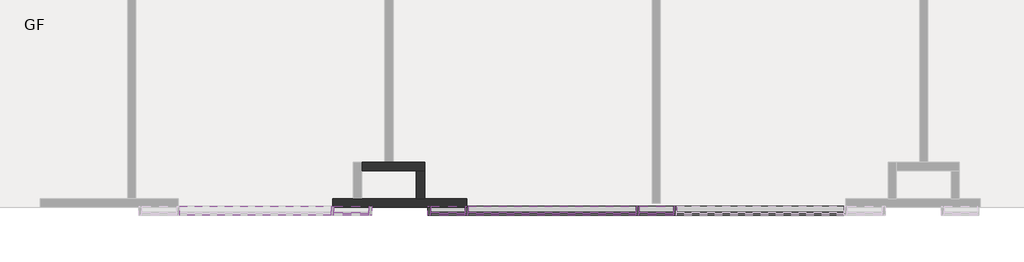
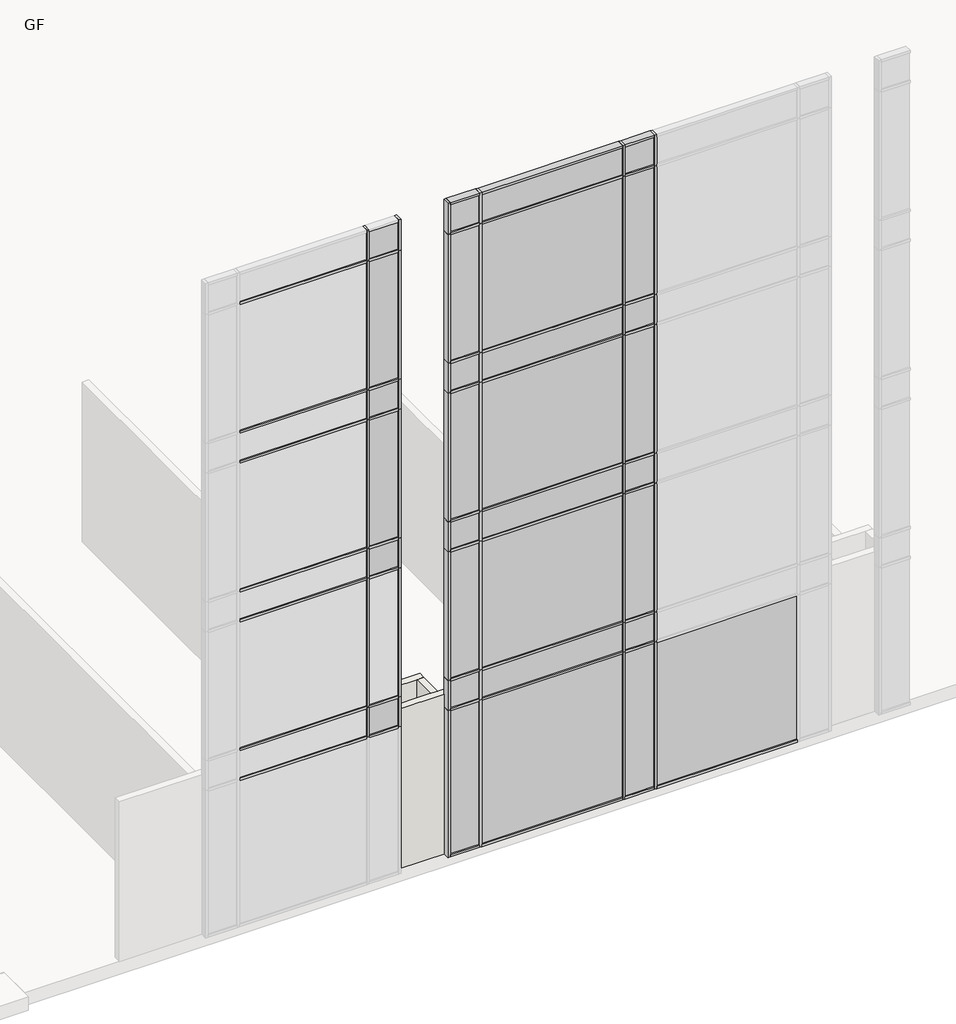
# One storey, part 4 of 23: 88 members, 31 plates, 3 walls.
"""IFC4 building model written with IfcOpenShell, lengths in millimetres."""

from ifc_helpers import new_model, si_unit, frame, origin, place, context, project, spatial, polyline, outline, extrude, faceted_brep, transform, mapped, element, save
from components import rectangular_mullion_50_x_150mm_64d38db8, rectangular_mullion_50_x_150mm_68b3818a, rectangular_mullion_50_x_150mm_f245f1eb, rectangular_mullion_50_x_150mm_5fdcfccd, rectangular_mullion_50_x_150mm_d11e3bb4, rectangular_mullion_50_x_150mm_7d543e93, rectangular_mullion_50_x_150mm_9e0f1e24, rectangular_mullion_50_x_150mm_dbb82e9e, rectangular_mullion_50_x_150mm_32aaa733, rectangular_mullion_50_x_150mm_9b8962c0, rectangular_mullion_50_x_150mm_a95743fc, rectangular_mullion_50_x_150mm_7dcb5a67, rectangular_mullion_50_x_150mm_f1d86669, system_panel_glazed_f9f902e6, system_panel_glazed_6ff5b55b, system_panel_glazed_93ed122c, system_panel_glazed_66c44f38, system_panel_glazed_399b1310, system_panel_glazed_5ec2e07d

model = new_model("IFC4")

# Units and contexts
model_context = context("Model", 3, world=origin())
ifc_project = project(units=[si_unit("LENGTHUNIT", "METRE", prefix="MILLI")], contexts=[model_context])

# Site, building, storey
site = spatial("IfcSite", under=ifc_project)
building = spatial("IfcBuilding", under=site)
storey = spatial("IfcBuildingStorey", under=building, Name="GF", Elevation=900.0)

# Members
placement = place(None, origin())
rectangular_mullion_50_x_150mm_shape = rectangular_mullion_50_x_150mm_64d38db8(model_context)
element("IfcMember", 1, ObjectType="Rectangular Mullion : 50 x 150mm", at=placement, inside=storey, context=model_context, shape_type="MappedRepresentation", body=[
    mapped(rectangular_mullion_50_x_150mm_shape, transform((-11502.5865899, -25897.6148653, 15125.0), x_axis=(0.0, 0.0, 1.0), y_axis=(0.0, -1.0, 0.0), z_axis=(1.0, 0.0, 0.0))),
])
element("IfcMember", 2, ObjectType="Rectangular Mullion : 50 x 150mm", at=placement, inside=storey, context=model_context, shape_type="MappedRepresentation", body=[
    mapped(rectangular_mullion_50_x_150mm_shape, transform((-7907.5865899, -25897.6148653, 15125.0), x_axis=(0.0, 0.0, 1.0), y_axis=(0.0, -1.0, 0.0), z_axis=(1.0, 0.0, 0.0))),
])
element("IfcMember", 3, ObjectType="Rectangular Mullion : 50 x 150mm", at=placement, inside=storey, context=model_context, shape_type="MappedRepresentation", body=[
    mapped(rectangular_mullion_50_x_150mm_shape, transform((-12102.5865899, -25897.6148653, 900.0), x_axis=(0.0, 0.0, -1.0), y_axis=(0.0, -1.0, 0.0), z_axis=(-1.0, 0.0, 0.0))),
])
element("IfcMember", 4, ObjectType="Rectangular Mullion : 50 x 150mm", at=placement, inside=storey, context=model_context, shape_type="MappedRepresentation", body=[
    mapped(rectangular_mullion_50_x_150mm_shape, transform((-8507.5865899, -25897.6148653, 900.0), x_axis=(0.0, 0.0, -1.0), y_axis=(0.0, -1.0, 0.0), z_axis=(-1.0, 0.0, 0.0))),
])
rectangular_mullion_50_x_150mm_2_shape = rectangular_mullion_50_x_150mm_68b3818a(model_context)
element("IfcMember", 5, ObjectType="Rectangular Mullion : 50 x 150mm", at=placement, inside=storey, context=model_context, shape_type="MappedRepresentation", body=[
    mapped(rectangular_mullion_50_x_150mm_2_shape, transform((-13172.5865899, -25897.6148653, 4750.0), x_axis=(0.0, 0.0, 1.0), y_axis=(0.0, -1.0, 0.0), z_axis=(1.0, 0.0, 0.0))),
])
element("IfcMember", 6, ObjectType="Rectangular Mullion : 50 x 150mm", at=placement, inside=storey, context=model_context, shape_type="MappedRepresentation", body=[
    mapped(rectangular_mullion_50_x_150mm_2_shape, transform((-13172.5865899, -25897.6148653, 4100.0), x_axis=(0.0, 0.0, 1.0), y_axis=(0.0, -1.0, 0.0), z_axis=(1.0, 0.0, 0.0))),
])
element("IfcMember", 7, ObjectType="Rectangular Mullion : 50 x 150mm", at=placement, inside=storey, context=model_context, shape_type="MappedRepresentation", body=[
    mapped(rectangular_mullion_50_x_150mm_2_shape, transform((-13172.5865899, -25897.6148653, 8200.0), x_axis=(0.0, 0.0, 1.0), y_axis=(0.0, -1.0, 0.0), z_axis=(1.0, 0.0, 0.0))),
])
element("IfcMember", 8, ObjectType="Rectangular Mullion : 50 x 150mm", at=placement, inside=storey, context=model_context, shape_type="MappedRepresentation", body=[
    mapped(rectangular_mullion_50_x_150mm_2_shape, transform((-13172.5865899, -25897.6148653, 11650.0), x_axis=(0.0, 0.0, 1.0), y_axis=(0.0, -1.0, 0.0), z_axis=(1.0, 0.0, 0.0))),
])
element("IfcMember", 9, ObjectType="Rectangular Mullion : 50 x 150mm", at=placement, inside=storey, context=model_context, shape_type="MappedRepresentation", body=[
    mapped(rectangular_mullion_50_x_150mm_2_shape, transform((-13172.5865899, -25897.6148653, 7550.0), x_axis=(0.0, 0.0, 1.0), y_axis=(0.0, -1.0, 0.0), z_axis=(1.0, 0.0, 0.0))),
])
element("IfcMember", 10, ObjectType="Rectangular Mullion : 50 x 150mm", at=placement, inside=storey, context=model_context, shape_type="MappedRepresentation", body=[
    mapped(rectangular_mullion_50_x_150mm_2_shape, transform((-13172.5865899, -25897.6148653, 11000.0), x_axis=(0.0, 0.0, 1.0), y_axis=(0.0, -1.0, 0.0), z_axis=(1.0, 0.0, 0.0))),
])
element("IfcMember", 11, ObjectType="Rectangular Mullion : 50 x 150mm", at=placement, inside=storey, context=model_context, shape_type="MappedRepresentation", body=[
    mapped(rectangular_mullion_50_x_150mm_2_shape, transform((-13172.5865899, -25897.6148653, 14450.0), x_axis=(0.0, 0.0, 1.0), y_axis=(0.0, -1.0, 0.0), z_axis=(1.0, 0.0, 0.0))),
])
element("IfcMember", 12, ObjectType="Rectangular Mullion : 50 x 150mm", at=placement, inside=storey, context=model_context, shape_type="MappedRepresentation", body=[
    mapped(rectangular_mullion_50_x_150mm_2_shape, transform((-11502.5865899, -25897.6148653, 4750.0), x_axis=(0.0, 0.0, 1.0), y_axis=(0.0, -1.0, 0.0), z_axis=(1.0, 0.0, 0.0))),
])
element("IfcMember", 13, ObjectType="Rectangular Mullion : 50 x 150mm", at=placement, inside=storey, context=model_context, shape_type="MappedRepresentation", body=[
    mapped(rectangular_mullion_50_x_150mm_2_shape, transform((-7907.5865899, -25897.6148653, 4750.0), x_axis=(0.0, 0.0, 1.0), y_axis=(0.0, -1.0, 0.0), z_axis=(1.0, 0.0, 0.0))),
])
element("IfcMember", 14, ObjectType="Rectangular Mullion : 50 x 150mm", at=placement, inside=storey, context=model_context, shape_type="MappedRepresentation", body=[
    mapped(rectangular_mullion_50_x_150mm_2_shape, transform((-11502.5865899, -25897.6148653, 4100.0), x_axis=(0.0, 0.0, 1.0), y_axis=(0.0, -1.0, 0.0), z_axis=(1.0, 0.0, 0.0))),
])
element("IfcMember", 15, ObjectType="Rectangular Mullion : 50 x 150mm", at=placement, inside=storey, context=model_context, shape_type="MappedRepresentation", body=[
    mapped(rectangular_mullion_50_x_150mm_2_shape, transform((-7907.5865899, -25897.6148653, 4100.0), x_axis=(0.0, 0.0, 1.0), y_axis=(0.0, -1.0, 0.0), z_axis=(1.0, 0.0, 0.0))),
])
element("IfcMember", 16, ObjectType="Rectangular Mullion : 50 x 150mm", at=placement, inside=storey, context=model_context, shape_type="MappedRepresentation", body=[
    mapped(rectangular_mullion_50_x_150mm_2_shape, transform((-11502.5865899, -25897.6148653, 8200.0), x_axis=(0.0, 0.0, 1.0), y_axis=(0.0, -1.0, 0.0), z_axis=(1.0, 0.0, 0.0))),
])
element("IfcMember", 17, ObjectType="Rectangular Mullion : 50 x 150mm", at=placement, inside=storey, context=model_context, shape_type="MappedRepresentation", body=[
    mapped(rectangular_mullion_50_x_150mm_2_shape, transform((-7907.5865899, -25897.6148653, 8200.0), x_axis=(0.0, 0.0, 1.0), y_axis=(0.0, -1.0, 0.0), z_axis=(1.0, 0.0, 0.0))),
])
element("IfcMember", 18, ObjectType="Rectangular Mullion : 50 x 150mm", at=placement, inside=storey, context=model_context, shape_type="MappedRepresentation", body=[
    mapped(rectangular_mullion_50_x_150mm_2_shape, transform((-11502.5865899, -25897.6148653, 11650.0), x_axis=(0.0, 0.0, 1.0), y_axis=(0.0, -1.0, 0.0), z_axis=(1.0, 0.0, 0.0))),
])
element("IfcMember", 19, ObjectType="Rectangular Mullion : 50 x 150mm", at=placement, inside=storey, context=model_context, shape_type="MappedRepresentation", body=[
    mapped(rectangular_mullion_50_x_150mm_2_shape, transform((-7907.5865899, -25897.6148653, 11650.0), x_axis=(0.0, 0.0, 1.0), y_axis=(0.0, -1.0, 0.0), z_axis=(1.0, 0.0, 0.0))),
])
element("IfcMember", 20, ObjectType="Rectangular Mullion : 50 x 150mm", at=placement, inside=storey, context=model_context, shape_type="MappedRepresentation", body=[
    mapped(rectangular_mullion_50_x_150mm_2_shape, transform((-11502.5865899, -25897.6148653, 7550.0), x_axis=(0.0, 0.0, 1.0), y_axis=(0.0, -1.0, 0.0), z_axis=(1.0, 0.0, 0.0))),
])
element("IfcMember", 21, ObjectType="Rectangular Mullion : 50 x 150mm", at=placement, inside=storey, context=model_context, shape_type="MappedRepresentation", body=[
    mapped(rectangular_mullion_50_x_150mm_2_shape, transform((-7907.5865899, -25897.6148653, 7550.0), x_axis=(0.0, 0.0, 1.0), y_axis=(0.0, -1.0, 0.0), z_axis=(1.0, 0.0, 0.0))),
])
element("IfcMember", 22, ObjectType="Rectangular Mullion : 50 x 150mm", at=placement, inside=storey, context=model_context, shape_type="MappedRepresentation", body=[
    mapped(rectangular_mullion_50_x_150mm_2_shape, transform((-11502.5865899, -25897.6148653, 11000.0), x_axis=(0.0, 0.0, 1.0), y_axis=(0.0, -1.0, 0.0), z_axis=(1.0, 0.0, 0.0))),
])
element("IfcMember", 23, ObjectType="Rectangular Mullion : 50 x 150mm", at=placement, inside=storey, context=model_context, shape_type="MappedRepresentation", body=[
    mapped(rectangular_mullion_50_x_150mm_2_shape, transform((-7907.5865899, -25897.6148653, 11000.0), x_axis=(0.0, 0.0, 1.0), y_axis=(0.0, -1.0, 0.0), z_axis=(1.0, 0.0, 0.0))),
])
element("IfcMember", 24, ObjectType="Rectangular Mullion : 50 x 150mm", at=placement, inside=storey, context=model_context, shape_type="MappedRepresentation", body=[
    mapped(rectangular_mullion_50_x_150mm_2_shape, transform((-11502.5865899, -25897.6148653, 14450.0), x_axis=(0.0, 0.0, 1.0), y_axis=(0.0, -1.0, 0.0), z_axis=(1.0, 0.0, 0.0))),
])
element("IfcMember", 25, ObjectType="Rectangular Mullion : 50 x 150mm", at=placement, inside=storey, context=model_context, shape_type="MappedRepresentation", body=[
    mapped(rectangular_mullion_50_x_150mm_2_shape, transform((-7907.5865899, -25897.6148653, 14450.0), x_axis=(0.0, 0.0, 1.0), y_axis=(0.0, -1.0, 0.0), z_axis=(1.0, 0.0, 0.0))),
])
rectangular_mullion_50_x_150mm_3_shape = rectangular_mullion_50_x_150mm_f245f1eb(model_context)
element("IfcMember", 26, ObjectType="Rectangular Mullion : 50 x 150mm", at=placement, inside=storey, context=model_context, shape_type="MappedRepresentation", body=[
    mapped(rectangular_mullion_50_x_150mm_3_shape, transform((-11477.5865899, -25897.6148653, 900.0), x_axis=(1.0, 0.0, 0.0), y_axis=(0.0, -1.0, 0.0), z_axis=(0.0, 0.0, -1.0))),
])
element("IfcMember", 27, ObjectType="Rectangular Mullion : 50 x 150mm", at=placement, inside=storey, context=model_context, shape_type="MappedRepresentation", body=[
    mapped(rectangular_mullion_50_x_150mm_3_shape, transform((-8532.5865899, -25897.6148653, 900.0), x_axis=(1.0, 0.0, 0.0), y_axis=(0.0, -1.0, 0.0), z_axis=(0.0, 0.0, -1.0))),
])
element("IfcMember", 28, ObjectType="Rectangular Mullion : 50 x 150mm", at=placement, inside=storey, context=model_context, shape_type="MappedRepresentation", body=[
    mapped(rectangular_mullion_50_x_150mm_3_shape, transform((-7882.5865899, -25897.6148653, 900.0), x_axis=(1.0, 0.0, 0.0), y_axis=(0.0, -1.0, 0.0), z_axis=(0.0, 0.0, -1.0))),
])
rectangular_mullion_50_x_150mm_4_shape = rectangular_mullion_50_x_150mm_5fdcfccd(model_context)
element("IfcMember", 29, ObjectType="Rectangular Mullion : 50 x 150mm", at=placement, inside=storey, context=model_context, shape_type="MappedRepresentation", body=[
    mapped(rectangular_mullion_50_x_150mm_4_shape, transform((-13822.5865899, -25897.6148653, 4750.0), x_axis=(0.0, 0.0, 1.0), y_axis=(0.0, -1.0, 0.0), z_axis=(1.0, 0.0, 0.0))),
])
element("IfcMember", 30, ObjectType="Rectangular Mullion : 50 x 150mm", at=placement, inside=storey, context=model_context, shape_type="MappedRepresentation", body=[
    mapped(rectangular_mullion_50_x_150mm_4_shape, transform((-13822.5865899, -25897.6148653, 4100.0), x_axis=(0.0, 0.0, 1.0), y_axis=(0.0, -1.0, 0.0), z_axis=(1.0, 0.0, 0.0))),
])
element("IfcMember", 31, ObjectType="Rectangular Mullion : 50 x 150mm", at=placement, inside=storey, context=model_context, shape_type="MappedRepresentation", body=[
    mapped(rectangular_mullion_50_x_150mm_4_shape, transform((-13822.5865899, -25897.6148653, 8200.0), x_axis=(0.0, 0.0, 1.0), y_axis=(0.0, -1.0, 0.0), z_axis=(1.0, 0.0, 0.0))),
])
element("IfcMember", 32, ObjectType="Rectangular Mullion : 50 x 150mm", at=placement, inside=storey, context=model_context, shape_type="MappedRepresentation", body=[
    mapped(rectangular_mullion_50_x_150mm_4_shape, transform((-13822.5865899, -25897.6148653, 11650.0), x_axis=(0.0, 0.0, 1.0), y_axis=(0.0, -1.0, 0.0), z_axis=(1.0, 0.0, 0.0))),
])
element("IfcMember", 33, ObjectType="Rectangular Mullion : 50 x 150mm", at=placement, inside=storey, context=model_context, shape_type="MappedRepresentation", body=[
    mapped(rectangular_mullion_50_x_150mm_4_shape, transform((-13822.5865899, -25897.6148653, 7550.0), x_axis=(0.0, 0.0, 1.0), y_axis=(0.0, -1.0, 0.0), z_axis=(1.0, 0.0, 0.0))),
])
element("IfcMember", 34, ObjectType="Rectangular Mullion : 50 x 150mm", at=placement, inside=storey, context=model_context, shape_type="MappedRepresentation", body=[
    mapped(rectangular_mullion_50_x_150mm_4_shape, transform((-13822.5865899, -25897.6148653, 11000.0), x_axis=(0.0, 0.0, 1.0), y_axis=(0.0, -1.0, 0.0), z_axis=(1.0, 0.0, 0.0))),
])
element("IfcMember", 35, ObjectType="Rectangular Mullion : 50 x 150mm", at=placement, inside=storey, context=model_context, shape_type="MappedRepresentation", body=[
    mapped(rectangular_mullion_50_x_150mm_4_shape, transform((-13822.5865899, -25897.6148653, 14450.0), x_axis=(0.0, 0.0, 1.0), y_axis=(0.0, -1.0, 0.0), z_axis=(1.0, 0.0, 0.0))),
])
rectangular_mullion_50_x_150mm_5_shape = rectangular_mullion_50_x_150mm_d11e3bb4(model_context)
element("IfcMember", 36, ObjectType="Rectangular Mullion : 50 x 150mm", at=placement, inside=storey, context=model_context, shape_type="MappedRepresentation", body=[
    mapped(rectangular_mullion_50_x_150mm_5_shape, transform((-13797.5865899, -25897.6148653, 4750.0), x_axis=(1.0, 0.0, 0.0), y_axis=(0.0, -1.0, 0.0), z_axis=(0.0, 0.0, -1.0))),
])
element("IfcMember", 37, ObjectType="Rectangular Mullion : 50 x 150mm", at=placement, inside=storey, context=model_context, shape_type="MappedRepresentation", body=[
    mapped(rectangular_mullion_50_x_150mm_5_shape, transform((-13797.5865899, -25897.6148653, 8200.0), x_axis=(1.0, 0.0, 0.0), y_axis=(0.0, -1.0, 0.0), z_axis=(0.0, 0.0, -1.0))),
])
element("IfcMember", 38, ObjectType="Rectangular Mullion : 50 x 150mm", at=placement, inside=storey, context=model_context, shape_type="MappedRepresentation", body=[
    mapped(rectangular_mullion_50_x_150mm_5_shape, transform((-13797.5865899, -25897.6148653, 11650.0), x_axis=(1.0, 0.0, 0.0), y_axis=(0.0, -1.0, 0.0), z_axis=(0.0, 0.0, -1.0))),
])
element("IfcMember", 39, ObjectType="Rectangular Mullion : 50 x 150mm", at=placement, inside=storey, context=model_context, shape_type="MappedRepresentation", body=[
    mapped(rectangular_mullion_50_x_150mm_5_shape, transform((-11477.5865899, -25897.6148653, 4750.0), x_axis=(1.0, 0.0, 0.0), y_axis=(0.0, -1.0, 0.0), z_axis=(0.0, 0.0, -1.0))),
])
element("IfcMember", 40, ObjectType="Rectangular Mullion : 50 x 150mm", at=placement, inside=storey, context=model_context, shape_type="MappedRepresentation", body=[
    mapped(rectangular_mullion_50_x_150mm_5_shape, transform((-8532.5865899, -25897.6148653, 4750.0), x_axis=(1.0, 0.0, 0.0), y_axis=(0.0, -1.0, 0.0), z_axis=(0.0, 0.0, -1.0))),
])
element("IfcMember", 41, ObjectType="Rectangular Mullion : 50 x 150mm", at=placement, inside=storey, context=model_context, shape_type="MappedRepresentation", body=[
    mapped(rectangular_mullion_50_x_150mm_5_shape, transform((-11477.5865899, -25897.6148653, 8200.0), x_axis=(1.0, 0.0, 0.0), y_axis=(0.0, -1.0, 0.0), z_axis=(0.0, 0.0, -1.0))),
])
element("IfcMember", 42, ObjectType="Rectangular Mullion : 50 x 150mm", at=placement, inside=storey, context=model_context, shape_type="MappedRepresentation", body=[
    mapped(rectangular_mullion_50_x_150mm_5_shape, transform((-8532.5865899, -25897.6148653, 8200.0), x_axis=(1.0, 0.0, 0.0), y_axis=(0.0, -1.0, 0.0), z_axis=(0.0, 0.0, -1.0))),
])
element("IfcMember", 43, ObjectType="Rectangular Mullion : 50 x 150mm", at=placement, inside=storey, context=model_context, shape_type="MappedRepresentation", body=[
    mapped(rectangular_mullion_50_x_150mm_5_shape, transform((-11477.5865899, -25897.6148653, 11650.0), x_axis=(1.0, 0.0, 0.0), y_axis=(0.0, -1.0, 0.0), z_axis=(0.0, 0.0, -1.0))),
])
element("IfcMember", 44, ObjectType="Rectangular Mullion : 50 x 150mm", at=placement, inside=storey, context=model_context, shape_type="MappedRepresentation", body=[
    mapped(rectangular_mullion_50_x_150mm_5_shape, transform((-8532.5865899, -25897.6148653, 11650.0), x_axis=(1.0, 0.0, 0.0), y_axis=(0.0, -1.0, 0.0), z_axis=(0.0, 0.0, -1.0))),
])
element("IfcMember", 45, ObjectType="Rectangular Mullion : 50 x 150mm", at=placement, inside=storey, context=model_context, shape_type="MappedRepresentation", body=[
    mapped(rectangular_mullion_50_x_150mm_5_shape, transform((-7882.5865899, -25897.6148653, 4750.0), x_axis=(1.0, 0.0, 0.0), y_axis=(0.0, -1.0, 0.0), z_axis=(0.0, 0.0, -1.0))),
])
element("IfcMember", 46, ObjectType="Rectangular Mullion : 50 x 150mm", at=placement, inside=storey, context=model_context, shape_type="MappedRepresentation", body=[
    mapped(rectangular_mullion_50_x_150mm_5_shape, transform((-7882.5865899, -25897.6148653, 8200.0), x_axis=(1.0, 0.0, 0.0), y_axis=(0.0, -1.0, 0.0), z_axis=(0.0, 0.0, -1.0))),
])
element("IfcMember", 47, ObjectType="Rectangular Mullion : 50 x 150mm", at=placement, inside=storey, context=model_context, shape_type="MappedRepresentation", body=[
    mapped(rectangular_mullion_50_x_150mm_5_shape, transform((-7882.5865899, -25897.6148653, 11650.0), x_axis=(1.0, 0.0, 0.0), y_axis=(0.0, -1.0, 0.0), z_axis=(0.0, 0.0, -1.0))),
])
rectangular_mullion_50_x_150mm_6_shape = rectangular_mullion_50_x_150mm_7d543e93(model_context)
element("IfcMember", 48, ObjectType="Rectangular Mullion : 50 x 150mm", at=placement, inside=storey, context=model_context, shape_type="MappedRepresentation", body=[
    mapped(rectangular_mullion_50_x_150mm_6_shape, transform((-13797.5865899, -25897.6148653, 4100.0), x_axis=(1.0, 0.0, 0.0), y_axis=(0.0, -1.0, 0.0), z_axis=(0.0, 0.0, -1.0))),
])
element("IfcMember", 49, ObjectType="Rectangular Mullion : 50 x 150mm", at=placement, inside=storey, context=model_context, shape_type="MappedRepresentation", body=[
    mapped(rectangular_mullion_50_x_150mm_6_shape, transform((-13797.5865899, -25897.6148653, 7550.0), x_axis=(1.0, 0.0, 0.0), y_axis=(0.0, -1.0, 0.0), z_axis=(0.0, 0.0, -1.0))),
])
element("IfcMember", 50, ObjectType="Rectangular Mullion : 50 x 150mm", at=placement, inside=storey, context=model_context, shape_type="MappedRepresentation", body=[
    mapped(rectangular_mullion_50_x_150mm_6_shape, transform((-13797.5865899, -25897.6148653, 11000.0), x_axis=(1.0, 0.0, 0.0), y_axis=(0.0, -1.0, 0.0), z_axis=(0.0, 0.0, -1.0))),
])
element("IfcMember", 51, ObjectType="Rectangular Mullion : 50 x 150mm", at=placement, inside=storey, context=model_context, shape_type="MappedRepresentation", body=[
    mapped(rectangular_mullion_50_x_150mm_6_shape, transform((-11477.5865899, -25897.6148653, 4100.0), x_axis=(1.0, 0.0, 0.0), y_axis=(0.0, -1.0, 0.0), z_axis=(0.0, 0.0, -1.0))),
])
element("IfcMember", 52, ObjectType="Rectangular Mullion : 50 x 150mm", at=placement, inside=storey, context=model_context, shape_type="MappedRepresentation", body=[
    mapped(rectangular_mullion_50_x_150mm_6_shape, transform((-8532.5865899, -25897.6148653, 4100.0), x_axis=(1.0, 0.0, 0.0), y_axis=(0.0, -1.0, 0.0), z_axis=(0.0, 0.0, -1.0))),
])
element("IfcMember", 53, ObjectType="Rectangular Mullion : 50 x 150mm", at=placement, inside=storey, context=model_context, shape_type="MappedRepresentation", body=[
    mapped(rectangular_mullion_50_x_150mm_6_shape, transform((-11477.5865899, -25897.6148653, 7550.0), x_axis=(1.0, 0.0, 0.0), y_axis=(0.0, -1.0, 0.0), z_axis=(0.0, 0.0, -1.0))),
])
element("IfcMember", 54, ObjectType="Rectangular Mullion : 50 x 150mm", at=placement, inside=storey, context=model_context, shape_type="MappedRepresentation", body=[
    mapped(rectangular_mullion_50_x_150mm_6_shape, transform((-8532.5865899, -25897.6148653, 7550.0), x_axis=(1.0, 0.0, 0.0), y_axis=(0.0, -1.0, 0.0), z_axis=(0.0, 0.0, -1.0))),
])
element("IfcMember", 55, ObjectType="Rectangular Mullion : 50 x 150mm", at=placement, inside=storey, context=model_context, shape_type="MappedRepresentation", body=[
    mapped(rectangular_mullion_50_x_150mm_6_shape, transform((-11477.5865899, -25897.6148653, 11000.0), x_axis=(1.0, 0.0, 0.0), y_axis=(0.0, -1.0, 0.0), z_axis=(0.0, 0.0, -1.0))),
])
element("IfcMember", 56, ObjectType="Rectangular Mullion : 50 x 150mm", at=placement, inside=storey, context=model_context, shape_type="MappedRepresentation", body=[
    mapped(rectangular_mullion_50_x_150mm_6_shape, transform((-8532.5865899, -25897.6148653, 11000.0), x_axis=(1.0, 0.0, 0.0), y_axis=(0.0, -1.0, 0.0), z_axis=(0.0, 0.0, -1.0))),
])
element("IfcMember", 57, ObjectType="Rectangular Mullion : 50 x 150mm", at=placement, inside=storey, context=model_context, shape_type="MappedRepresentation", body=[
    mapped(rectangular_mullion_50_x_150mm_6_shape, transform((-7882.5865899, -25897.6148653, 4100.0), x_axis=(1.0, 0.0, 0.0), y_axis=(0.0, -1.0, 0.0), z_axis=(0.0, 0.0, -1.0))),
])
element("IfcMember", 58, ObjectType="Rectangular Mullion : 50 x 150mm", at=placement, inside=storey, context=model_context, shape_type="MappedRepresentation", body=[
    mapped(rectangular_mullion_50_x_150mm_6_shape, transform((-7882.5865899, -25897.6148653, 7550.0), x_axis=(1.0, 0.0, 0.0), y_axis=(0.0, -1.0, 0.0), z_axis=(0.0, 0.0, -1.0))),
])
element("IfcMember", 59, ObjectType="Rectangular Mullion : 50 x 150mm", at=placement, inside=storey, context=model_context, shape_type="MappedRepresentation", body=[
    mapped(rectangular_mullion_50_x_150mm_6_shape, transform((-7882.5865899, -25897.6148653, 11000.0), x_axis=(1.0, 0.0, 0.0), y_axis=(0.0, -1.0, 0.0), z_axis=(0.0, 0.0, -1.0))),
])
rectangular_mullion_50_x_150mm_7_shape = rectangular_mullion_50_x_150mm_9e0f1e24(model_context)
element("IfcMember", 60, ObjectType="Rectangular Mullion : 50 x 150mm", at=placement, inside=storey, context=model_context, shape_type="MappedRepresentation", body=[
    mapped(rectangular_mullion_50_x_150mm_7_shape, transform((-13797.5865899, -25897.6148653, 14450.0), x_axis=(1.0, 0.0, 0.0), y_axis=(0.0, -1.0, 0.0), z_axis=(0.0, 0.0, -1.0))),
])
element("IfcMember", 61, ObjectType="Rectangular Mullion : 50 x 150mm", at=placement, inside=storey, context=model_context, shape_type="MappedRepresentation", body=[
    mapped(rectangular_mullion_50_x_150mm_7_shape, transform((-11477.5865899, -25897.6148653, 14450.0), x_axis=(1.0, 0.0, 0.0), y_axis=(0.0, -1.0, 0.0), z_axis=(0.0, 0.0, -1.0))),
])
element("IfcMember", 62, ObjectType="Rectangular Mullion : 50 x 150mm", at=placement, inside=storey, context=model_context, shape_type="MappedRepresentation", body=[
    mapped(rectangular_mullion_50_x_150mm_7_shape, transform((-8532.5865899, -25897.6148653, 14450.0), x_axis=(1.0, 0.0, 0.0), y_axis=(0.0, -1.0, 0.0), z_axis=(0.0, 0.0, -1.0))),
])
element("IfcMember", 63, ObjectType="Rectangular Mullion : 50 x 150mm", at=placement, inside=storey, context=model_context, shape_type="MappedRepresentation", body=[
    mapped(rectangular_mullion_50_x_150mm_7_shape, transform((-7882.5865899, -25897.6148653, 14450.0), x_axis=(1.0, 0.0, 0.0), y_axis=(0.0, -1.0, 0.0), z_axis=(0.0, 0.0, -1.0))),
])
rectangular_mullion_50_x_150mm_8_shape = rectangular_mullion_50_x_150mm_dbb82e9e(model_context)
element("IfcMember", 64, ObjectType="Rectangular Mullion : 50 x 150mm", at=placement, inside=storey, context=model_context, shape_type="MappedRepresentation", body=[
    mapped(rectangular_mullion_50_x_150mm_8_shape, transform((-12152.5865899, -25897.6148653, 15125.0), x_axis=(-1.0, 0.0, 0.0), y_axis=(0.0, -1.0, 0.0), z_axis=(0.0, 0.0, 1.0))),
])
rectangular_mullion_50_x_150mm_9_shape = rectangular_mullion_50_x_150mm_32aaa733(model_context)
element("IfcMember", 65, ObjectType="Rectangular Mullion : 50 x 150mm", at=placement, inside=storey, context=model_context, shape_type="MappedRepresentation", body=[
    mapped(rectangular_mullion_50_x_150mm_9_shape, transform((-13122.5865899, -25897.6148653, 4750.0), x_axis=(1.0, 0.0, 0.0), y_axis=(0.0, -1.0, 0.0), z_axis=(0.0, 0.0, -1.0))),
])
element("IfcMember", 66, ObjectType="Rectangular Mullion : 50 x 150mm", at=placement, inside=storey, context=model_context, shape_type="MappedRepresentation", body=[
    mapped(rectangular_mullion_50_x_150mm_9_shape, transform((-13122.5865899, -25897.6148653, 8200.0), x_axis=(1.0, 0.0, 0.0), y_axis=(0.0, -1.0, 0.0), z_axis=(0.0, 0.0, -1.0))),
])
element("IfcMember", 67, ObjectType="Rectangular Mullion : 50 x 150mm", at=placement, inside=storey, context=model_context, shape_type="MappedRepresentation", body=[
    mapped(rectangular_mullion_50_x_150mm_9_shape, transform((-13122.5865899, -25897.6148653, 11650.0), x_axis=(1.0, 0.0, 0.0), y_axis=(0.0, -1.0, 0.0), z_axis=(0.0, 0.0, -1.0))),
])
rectangular_mullion_50_x_150mm_10_shape = rectangular_mullion_50_x_150mm_9b8962c0(model_context)
element("IfcMember", 68, ObjectType="Rectangular Mullion : 50 x 150mm", at=placement, inside=storey, context=model_context, shape_type="MappedRepresentation", body=[
    mapped(rectangular_mullion_50_x_150mm_10_shape, transform((-12152.5865899, -25897.6148653, 4750.0), x_axis=(-1.0, 0.0, 0.0), y_axis=(0.0, -1.0, 0.0), z_axis=(0.0, 0.0, 1.0))),
])
element("IfcMember", 69, ObjectType="Rectangular Mullion : 50 x 150mm", at=placement, inside=storey, context=model_context, shape_type="MappedRepresentation", body=[
    mapped(rectangular_mullion_50_x_150mm_10_shape, transform((-12152.5865899, -25897.6148653, 8200.0), x_axis=(-1.0, 0.0, 0.0), y_axis=(0.0, -1.0, 0.0), z_axis=(0.0, 0.0, 1.0))),
])
element("IfcMember", 70, ObjectType="Rectangular Mullion : 50 x 150mm", at=placement, inside=storey, context=model_context, shape_type="MappedRepresentation", body=[
    mapped(rectangular_mullion_50_x_150mm_10_shape, transform((-12152.5865899, -25897.6148653, 11650.0), x_axis=(-1.0, 0.0, 0.0), y_axis=(0.0, -1.0, 0.0), z_axis=(0.0, 0.0, 1.0))),
])
element("IfcMember", 71, ObjectType="Rectangular Mullion : 50 x 150mm", at=placement, inside=storey, context=model_context, shape_type="MappedRepresentation", body=[
    mapped(rectangular_mullion_50_x_150mm_10_shape, transform((-13122.5865899, -25897.6148653, 4100.0), x_axis=(1.0, 0.0, 0.0), y_axis=(0.0, -1.0, 0.0), z_axis=(0.0, 0.0, -1.0))),
])
element("IfcMember", 72, ObjectType="Rectangular Mullion : 50 x 150mm", at=placement, inside=storey, context=model_context, shape_type="MappedRepresentation", body=[
    mapped(rectangular_mullion_50_x_150mm_10_shape, transform((-13122.5865899, -25897.6148653, 7550.0), x_axis=(1.0, 0.0, 0.0), y_axis=(0.0, -1.0, 0.0), z_axis=(0.0, 0.0, -1.0))),
])
element("IfcMember", 73, ObjectType="Rectangular Mullion : 50 x 150mm", at=placement, inside=storey, context=model_context, shape_type="MappedRepresentation", body=[
    mapped(rectangular_mullion_50_x_150mm_10_shape, transform((-13122.5865899, -25897.6148653, 11000.0), x_axis=(1.0, 0.0, 0.0), y_axis=(0.0, -1.0, 0.0), z_axis=(0.0, 0.0, -1.0))),
])
rectangular_mullion_50_x_150mm_11_shape = rectangular_mullion_50_x_150mm_a95743fc(model_context)
element("IfcMember", 74, ObjectType="Rectangular Mullion : 50 x 150mm", at=placement, inside=storey, context=model_context, shape_type="MappedRepresentation", body=[
    mapped(rectangular_mullion_50_x_150mm_11_shape, transform((-12152.5865899, -25897.6148653, 4100.0), x_axis=(-1.0, 0.0, 0.0), y_axis=(0.0, -1.0, 0.0), z_axis=(0.0, 0.0, 1.0))),
])
element("IfcMember", 75, ObjectType="Rectangular Mullion : 50 x 150mm", at=placement, inside=storey, context=model_context, shape_type="MappedRepresentation", body=[
    mapped(rectangular_mullion_50_x_150mm_9_shape, transform((-12152.5865899, -25897.6148653, 7550.0), x_axis=(-1.0, 0.0, 0.0), y_axis=(0.0, -1.0, 0.0), z_axis=(0.0, 0.0, 1.0))),
])
element("IfcMember", 76, ObjectType="Rectangular Mullion : 50 x 150mm", at=placement, inside=storey, context=model_context, shape_type="MappedRepresentation", body=[
    mapped(rectangular_mullion_50_x_150mm_9_shape, transform((-12152.5865899, -25897.6148653, 11000.0), x_axis=(-1.0, 0.0, 0.0), y_axis=(0.0, -1.0, 0.0), z_axis=(0.0, 0.0, 1.0))),
])
element("IfcMember", 77, ObjectType="Rectangular Mullion : 50 x 150mm", at=placement, inside=storey, context=model_context, shape_type="MappedRepresentation", body=[
    mapped(rectangular_mullion_50_x_150mm_9_shape, transform((-12152.5865899, -25897.6148653, 14450.0), x_axis=(-1.0, 0.0, 0.0), y_axis=(0.0, -1.0, 0.0), z_axis=(0.0, 0.0, 1.0))),
])
element("IfcMember", 78, ObjectType="Rectangular Mullion : 50 x 150mm", at=placement, inside=storey, context=model_context, shape_type="MappedRepresentation", body=[
    mapped(rectangular_mullion_50_x_150mm_8_shape, transform((-13122.5865899, -25897.6148653, 14450.0), x_axis=(1.0, 0.0, 0.0), y_axis=(0.0, -1.0, 0.0), z_axis=(0.0, 0.0, -1.0))),
])
rectangular_mullion_50_x_150mm_12_shape = rectangular_mullion_50_x_150mm_7dcb5a67(model_context)
element("IfcMember", 79, ObjectType="Rectangular Mullion : 50 x 150mm", at=placement, inside=storey, context=model_context, shape_type="MappedRepresentation", body=[
    mapped(rectangular_mullion_50_x_150mm_12_shape, transform((-11452.5865899, -25897.6148653, 900.0), x_axis=(0.0, 0.0, -1.0), y_axis=(0.0, -1.0, 0.0), z_axis=(-1.0, 0.0, 0.0))),
])
element("IfcMember", 80, ObjectType="Rectangular Mullion : 50 x 150mm", at=placement, inside=storey, context=model_context, shape_type="MappedRepresentation", body=[
    mapped(rectangular_mullion_50_x_150mm_12_shape, transform((-7857.5865899, -25897.6148653, 900.0), x_axis=(0.0, 0.0, -1.0), y_axis=(0.0, -1.0, 0.0), z_axis=(-1.0, 0.0, 0.0))),
])
element("IfcMember", 81, ObjectType="Rectangular Mullion : 50 x 150mm", at=placement, inside=storey, context=model_context, shape_type="MappedRepresentation", body=[
    mapped(rectangular_mullion_50_x_150mm_12_shape, transform((-8557.5865899, -25897.6148653, 15125.0), x_axis=(0.0, 0.0, 1.0), y_axis=(0.0, -1.0, 0.0), z_axis=(1.0, 0.0, 0.0))),
])
rectangular_mullion_50_x_150mm_13_shape = rectangular_mullion_50_x_150mm_f1d86669(model_context)
element("IfcMember", 82, ObjectType="Rectangular Mullion : 50 x 150mm", at=placement, inside=storey, context=model_context, shape_type="MappedRepresentation", body=[
    mapped(rectangular_mullion_50_x_150mm_13_shape, transform((-8557.5865899, -25897.6148653, 4750.0), x_axis=(0.0, 0.0, 1.0), y_axis=(0.0, -1.0, 0.0), z_axis=(1.0, 0.0, 0.0))),
])
element("IfcMember", 83, ObjectType="Rectangular Mullion : 50 x 150mm", at=placement, inside=storey, context=model_context, shape_type="MappedRepresentation", body=[
    mapped(rectangular_mullion_50_x_150mm_13_shape, transform((-8557.5865899, -25897.6148653, 4100.0), x_axis=(0.0, 0.0, 1.0), y_axis=(0.0, -1.0, 0.0), z_axis=(1.0, 0.0, 0.0))),
])
element("IfcMember", 84, ObjectType="Rectangular Mullion : 50 x 150mm", at=placement, inside=storey, context=model_context, shape_type="MappedRepresentation", body=[
    mapped(rectangular_mullion_50_x_150mm_13_shape, transform((-8557.5865899, -25897.6148653, 8200.0), x_axis=(0.0, 0.0, 1.0), y_axis=(0.0, -1.0, 0.0), z_axis=(1.0, 0.0, 0.0))),
])
element("IfcMember", 85, ObjectType="Rectangular Mullion : 50 x 150mm", at=placement, inside=storey, context=model_context, shape_type="MappedRepresentation", body=[
    mapped(rectangular_mullion_50_x_150mm_13_shape, transform((-8557.5865899, -25897.6148653, 11650.0), x_axis=(0.0, 0.0, 1.0), y_axis=(0.0, -1.0, 0.0), z_axis=(1.0, 0.0, 0.0))),
])
element("IfcMember", 86, ObjectType="Rectangular Mullion : 50 x 150mm", at=placement, inside=storey, context=model_context, shape_type="MappedRepresentation", body=[
    mapped(rectangular_mullion_50_x_150mm_13_shape, transform((-8557.5865899, -25897.6148653, 7550.0), x_axis=(0.0, 0.0, 1.0), y_axis=(0.0, -1.0, 0.0), z_axis=(1.0, 0.0, 0.0))),
])
element("IfcMember", 87, ObjectType="Rectangular Mullion : 50 x 150mm", at=placement, inside=storey, context=model_context, shape_type="MappedRepresentation", body=[
    mapped(rectangular_mullion_50_x_150mm_13_shape, transform((-8557.5865899, -25897.6148653, 11000.0), x_axis=(0.0, 0.0, 1.0), y_axis=(0.0, -1.0, 0.0), z_axis=(1.0, 0.0, 0.0))),
])
element("IfcMember", 88, ObjectType="Rectangular Mullion : 50 x 150mm", at=placement, inside=storey, context=model_context, shape_type="MappedRepresentation", body=[
    mapped(rectangular_mullion_50_x_150mm_13_shape, transform((-8557.5865899, -25897.6148653, 14450.0), x_axis=(0.0, 0.0, 1.0), y_axis=(0.0, -1.0, 0.0), z_axis=(1.0, 0.0, 0.0))),
])

# Plates
system_panel_glazed_shape = system_panel_glazed_f9f902e6(model_context)
element("IfcPlate", 89, ObjectType="System Panel : Glazed", at=placement, inside=storey, context=model_context, shape_type="MappedRepresentation", body=[
    mapped(system_panel_glazed_shape, transform((-11802.5865899, -25897.6148653, 950.0), x_axis=(1.0, 0.0, 0.0), y_axis=(0.0, 1.0, 0.0), z_axis=(0.0, 0.0, 1.0))),
])
element("IfcPlate", 90, ObjectType="System Panel : Glazed", at=placement, inside=storey, context=model_context, shape_type="MappedRepresentation", body=[
    mapped(system_panel_glazed_shape, transform((-8207.5865899, -25897.6148653, 950.0), x_axis=(1.0, 0.0, 0.0), y_axis=(0.0, 1.0, 0.0), z_axis=(0.0, 0.0, 1.0))),
])
system_panel_glazed_2_shape = system_panel_glazed_6ff5b55b(model_context)
element("IfcPlate", 91, ObjectType="System Panel : Glazed", at=placement, inside=storey, context=model_context, shape_type="MappedRepresentation", body=[
    mapped(system_panel_glazed_2_shape, transform((-13472.5865899, -25897.6148653, 8225.0), x_axis=(1.0, 0.0, 0.0), y_axis=(0.0, 1.0, 0.0), z_axis=(0.0, 0.0, 1.0))),
])
element("IfcPlate", 92, ObjectType="System Panel : Glazed", at=placement, inside=storey, context=model_context, shape_type="MappedRepresentation", body=[
    mapped(system_panel_glazed_2_shape, transform((-13472.5865899, -25897.6148653, 11675.0), x_axis=(1.0, 0.0, 0.0), y_axis=(0.0, 1.0, 0.0), z_axis=(0.0, 0.0, 1.0))),
])
element("IfcPlate", 93, ObjectType="System Panel : Glazed", at=placement, inside=storey, context=model_context, shape_type="MappedRepresentation", body=[
    mapped(system_panel_glazed_2_shape, transform((-11802.5865899, -25897.6148653, 4775.0), x_axis=(1.0, 0.0, 0.0), y_axis=(0.0, 1.0, 0.0), z_axis=(0.0, 0.0, 1.0))),
])
element("IfcPlate", 94, ObjectType="System Panel : Glazed", at=placement, inside=storey, context=model_context, shape_type="MappedRepresentation", body=[
    mapped(system_panel_glazed_2_shape, transform((-8207.5865899, -25897.6148653, 4775.0), x_axis=(1.0, 0.0, 0.0), y_axis=(0.0, 1.0, 0.0), z_axis=(0.0, 0.0, 1.0))),
])
element("IfcPlate", 95, ObjectType="System Panel : Glazed", at=placement, inside=storey, context=model_context, shape_type="MappedRepresentation", body=[
    mapped(system_panel_glazed_2_shape, transform((-11802.5865899, -25897.6148653, 8225.0), x_axis=(1.0, 0.0, 0.0), y_axis=(0.0, 1.0, 0.0), z_axis=(0.0, 0.0, 1.0))),
])
element("IfcPlate", 96, ObjectType="System Panel : Glazed", at=placement, inside=storey, context=model_context, shape_type="MappedRepresentation", body=[
    mapped(system_panel_glazed_2_shape, transform((-8207.5865899, -25897.6148653, 8225.0), x_axis=(1.0, 0.0, 0.0), y_axis=(0.0, 1.0, 0.0), z_axis=(0.0, 0.0, 1.0))),
])
element("IfcPlate", 97, ObjectType="System Panel : Glazed", at=placement, inside=storey, context=model_context, shape_type="MappedRepresentation", body=[
    mapped(system_panel_glazed_2_shape, transform((-11802.5865899, -25897.6148653, 11675.0), x_axis=(1.0, 0.0, 0.0), y_axis=(0.0, 1.0, 0.0), z_axis=(0.0, 0.0, 1.0))),
])
element("IfcPlate", 98, ObjectType="System Panel : Glazed", at=placement, inside=storey, context=model_context, shape_type="MappedRepresentation", body=[
    mapped(system_panel_glazed_2_shape, transform((-8207.5865899, -25897.6148653, 11675.0), x_axis=(1.0, 0.0, 0.0), y_axis=(0.0, 1.0, 0.0), z_axis=(0.0, 0.0, 1.0))),
])
system_panel_glazed_3_shape = system_panel_glazed_93ed122c(model_context)
element("IfcPlate", 99, ObjectType="System Panel : Glazed", at=placement, inside=storey, context=model_context, shape_type="MappedRepresentation", body=[
    mapped(system_panel_glazed_3_shape, transform((-13472.5865899, -25897.6148653, 4125.0), x_axis=(1.0, 0.0, 0.0), y_axis=(0.0, 1.0, 0.0), z_axis=(0.0, 0.0, 1.0))),
])
element("IfcPlate", 100, ObjectType="System Panel : Glazed", at=placement, inside=storey, context=model_context, shape_type="MappedRepresentation", body=[
    mapped(system_panel_glazed_3_shape, transform((-13472.5865899, -25897.6148653, 7575.0), x_axis=(1.0, 0.0, 0.0), y_axis=(0.0, 1.0, 0.0), z_axis=(0.0, 0.0, 1.0))),
])
element("IfcPlate", 101, ObjectType="System Panel : Glazed", at=placement, inside=storey, context=model_context, shape_type="MappedRepresentation", body=[
    mapped(system_panel_glazed_3_shape, transform((-13472.5865899, -25897.6148653, 11025.0), x_axis=(1.0, 0.0, 0.0), y_axis=(0.0, 1.0, 0.0), z_axis=(0.0, 0.0, 1.0))),
])
element("IfcPlate", 102, ObjectType="System Panel : Glazed", at=placement, inside=storey, context=model_context, shape_type="MappedRepresentation", body=[
    mapped(system_panel_glazed_3_shape, transform((-13472.5865899, -25897.6148653, 14475.0), x_axis=(1.0, 0.0, 0.0), y_axis=(0.0, 1.0, 0.0), z_axis=(0.0, 0.0, 1.0))),
])
element("IfcPlate", 103, ObjectType="System Panel : Glazed", at=placement, inside=storey, context=model_context, shape_type="MappedRepresentation", body=[
    mapped(system_panel_glazed_3_shape, transform((-11802.5865899, -25897.6148653, 4125.0), x_axis=(1.0, 0.0, 0.0), y_axis=(0.0, 1.0, 0.0), z_axis=(0.0, 0.0, 1.0))),
])
element("IfcPlate", 104, ObjectType="System Panel : Glazed", at=placement, inside=storey, context=model_context, shape_type="MappedRepresentation", body=[
    mapped(system_panel_glazed_3_shape, transform((-8207.5865899, -25897.6148653, 4125.0), x_axis=(1.0, 0.0, 0.0), y_axis=(0.0, 1.0, 0.0), z_axis=(0.0, 0.0, 1.0))),
])
element("IfcPlate", 105, ObjectType="System Panel : Glazed", at=placement, inside=storey, context=model_context, shape_type="MappedRepresentation", body=[
    mapped(system_panel_glazed_3_shape, transform((-11802.5865899, -25897.6148653, 7575.0), x_axis=(1.0, 0.0, 0.0), y_axis=(0.0, 1.0, 0.0), z_axis=(0.0, 0.0, 1.0))),
])
element("IfcPlate", 106, ObjectType="System Panel : Glazed", at=placement, inside=storey, context=model_context, shape_type="MappedRepresentation", body=[
    mapped(system_panel_glazed_3_shape, transform((-8207.5865899, -25897.6148653, 7575.0), x_axis=(1.0, 0.0, 0.0), y_axis=(0.0, 1.0, 0.0), z_axis=(0.0, 0.0, 1.0))),
])
element("IfcPlate", 107, ObjectType="System Panel : Glazed", at=placement, inside=storey, context=model_context, shape_type="MappedRepresentation", body=[
    mapped(system_panel_glazed_3_shape, transform((-11802.5865899, -25897.6148653, 11025.0), x_axis=(1.0, 0.0, 0.0), y_axis=(0.0, 1.0, 0.0), z_axis=(0.0, 0.0, 1.0))),
])
element("IfcPlate", 108, ObjectType="System Panel : Glazed", at=placement, inside=storey, context=model_context, shape_type="MappedRepresentation", body=[
    mapped(system_panel_glazed_3_shape, transform((-8207.5865899, -25897.6148653, 11025.0), x_axis=(1.0, 0.0, 0.0), y_axis=(0.0, 1.0, 0.0), z_axis=(0.0, 0.0, 1.0))),
])
element("IfcPlate", 109, ObjectType="System Panel : Glazed", at=placement, inside=storey, context=model_context, shape_type="MappedRepresentation", body=[
    mapped(system_panel_glazed_3_shape, transform((-11802.5865899, -25897.6148653, 14475.0), x_axis=(1.0, 0.0, 0.0), y_axis=(0.0, 1.0, 0.0), z_axis=(0.0, 0.0, 1.0))),
])
element("IfcPlate", 110, ObjectType="System Panel : Glazed", at=placement, inside=storey, context=model_context, shape_type="MappedRepresentation", body=[
    mapped(system_panel_glazed_3_shape, transform((-8207.5865899, -25897.6148653, 14475.0), x_axis=(1.0, 0.0, 0.0), y_axis=(0.0, 1.0, 0.0), z_axis=(0.0, 0.0, 1.0))),
])
system_panel_glazed_4_shape = system_panel_glazed_66c44f38(model_context)
element("IfcPlate", 111, ObjectType="System Panel : Glazed", at=placement, inside=storey, context=model_context, shape_type="MappedRepresentation", body=[
    mapped(system_panel_glazed_4_shape, transform((-10005.0865899, -25897.6148653, 950.0), x_axis=(1.0, 0.0, 0.0), y_axis=(0.0, 1.0, 0.0), z_axis=(0.0, 0.0, 1.0))),
])
element("IfcPlate", 112, ObjectType="System Panel : Glazed", at=placement, inside=storey, context=model_context, shape_type="MappedRepresentation", body=[
    mapped(system_panel_glazed_4_shape, transform((-6410.0865899, -25897.6148653, 950.0), x_axis=(1.0, 0.0, 0.0), y_axis=(0.0, 1.0, 0.0), z_axis=(0.0, 0.0, 1.0))),
])
system_panel_glazed_5_shape = system_panel_glazed_399b1310(model_context)
element("IfcPlate", 113, ObjectType="System Panel : Glazed", at=placement, inside=storey, context=model_context, shape_type="MappedRepresentation", body=[
    mapped(system_panel_glazed_5_shape, transform((-10005.0865899, -25897.6148653, 4775.0), x_axis=(1.0, 0.0, 0.0), y_axis=(0.0, 1.0, 0.0), z_axis=(0.0, 0.0, 1.0))),
])
element("IfcPlate", 114, ObjectType="System Panel : Glazed", at=placement, inside=storey, context=model_context, shape_type="MappedRepresentation", body=[
    mapped(system_panel_glazed_5_shape, transform((-10005.0865899, -25897.6148653, 8225.0), x_axis=(1.0, 0.0, 0.0), y_axis=(0.0, 1.0, 0.0), z_axis=(0.0, 0.0, 1.0))),
])
element("IfcPlate", 115, ObjectType="System Panel : Glazed", at=placement, inside=storey, context=model_context, shape_type="MappedRepresentation", body=[
    mapped(system_panel_glazed_5_shape, transform((-10005.0865899, -25897.6148653, 11675.0), x_axis=(1.0, 0.0, 0.0), y_axis=(0.0, 1.0, 0.0), z_axis=(0.0, 0.0, 1.0))),
])
system_panel_glazed_6_shape = system_panel_glazed_5ec2e07d(model_context)
element("IfcPlate", 116, ObjectType="System Panel : Glazed", at=placement, inside=storey, context=model_context, shape_type="MappedRepresentation", body=[
    mapped(system_panel_glazed_6_shape, transform((-10005.0865899, -25897.6148653, 4125.0), x_axis=(1.0, 0.0, 0.0), y_axis=(0.0, 1.0, 0.0), z_axis=(0.0, 0.0, 1.0))),
])
element("IfcPlate", 117, ObjectType="System Panel : Glazed", at=placement, inside=storey, context=model_context, shape_type="MappedRepresentation", body=[
    mapped(system_panel_glazed_6_shape, transform((-10005.0865899, -25897.6148653, 7575.0), x_axis=(1.0, 0.0, 0.0), y_axis=(0.0, 1.0, 0.0), z_axis=(0.0, 0.0, 1.0))),
])
element("IfcPlate", 118, ObjectType="System Panel : Glazed", at=placement, inside=storey, context=model_context, shape_type="MappedRepresentation", body=[
    mapped(system_panel_glazed_6_shape, transform((-10005.0865899, -25897.6148653, 11025.0), x_axis=(1.0, 0.0, 0.0), y_axis=(0.0, 1.0, 0.0), z_axis=(0.0, 0.0, 1.0))),
])
element("IfcPlate", 119, ObjectType="System Panel : Glazed", at=placement, inside=storey, context=model_context, shape_type="MappedRepresentation", body=[
    mapped(system_panel_glazed_6_shape, transform((-10005.0865899, -25897.6148653, 14475.0), x_axis=(1.0, 0.0, 0.0), y_axis=(0.0, 1.0, 0.0), z_axis=(0.0, 0.0, 1.0))),
])

# Walls
element("IfcWall", 120, ObjectType="wall-115", at=placement, inside=storey, context=model_context, shape_type="Brep", body=[
    faceted_brep([(-13295.5865899, -25204.6148653, 900.0), (-12349.5865899, -25204.6148653, 900.0), (-12207.5865899, -25204.6148653, 900.0), (-12207.5865899, -25204.6148653, 4375.0), (-12349.5865899, -25204.6148653, 4375.0), (-13295.5865899, -25204.6148653, 4375.0), (-13295.5865899, -25062.6148653, 900.0), (-13295.5865899, -25062.6148653, 4375.0), (-12895.0865899, -25062.6148653, 4375.0), (-12753.0865899, -25062.6148653, 4375.0), (-12207.5865899, -25062.6148653, 4375.0), (-12207.5865899, -25062.6148653, 900.0), (-12753.0865899, -25062.6148653, 900.0), (-12895.0865899, -25062.6148653, 900.0)], [[[0, 1, 2, 3, 4, 5]], [[6, 7, 8, 9, 10, 11, 12, 13]], [[2, 1, 0, 6, 13, 12, 11]], [[3, 2, 11, 10]], [[0, 5, 7, 6]], [[5, 4, 3, 10, 9, 8, 7]]]),
])
element("IfcWall", 121, ObjectType="wall-115", at=placement, inside=storey, context=model_context, shape_type="SweptSolid", body=[
    extrude(outline(polyline([(-12349.5865899, -25692.6148653), (-12349.5865899, -25204.6148653), (-12207.5865899, -25204.6148653), (-12207.5865899, -25692.6148653), (-12349.5865899, -25692.6148653)])), frame((0.0, 0.0, 900.0), z_axis=(0.0, 0.0, 1.0), x_axis=(1.0, 0.0, 0.0)), (0.0, 0.0, 1.0), 3475.0),
])
element("IfcWall", 122, ObjectType="wall-115", at=placement, inside=storey, context=model_context, shape_type="Brep", body=[
    faceted_brep([(-13797.5865899, -25834.6148653, 900.0), (-11477.5865899, -25834.6148653, 900.0), (-11477.5865899, -25834.6148653, 4375.0), (-13797.5865899, -25834.6148653, 4375.0), (-13797.5865899, -25692.6148653, 900.0), (-13797.5865899, -25692.6148653, 4375.0), (-13437.5865899, -25692.6148653, 4375.0), (-13295.5865899, -25692.6148653, 4375.0), (-12349.5865899, -25692.6148653, 4375.0), (-12207.5865899, -25692.6148653, 4375.0), (-11477.5865899, -25692.6148653, 4375.0), (-11477.5865899, -25692.6148653, 900.0), (-12207.5865899, -25692.6148653, 900.0), (-12349.5865899, -25692.6148653, 900.0), (-13295.5865899, -25692.6148653, 900.0), (-13437.5865899, -25692.6148653, 900.0)], [[[0, 1, 2, 3]], [[4, 5, 6, 7, 8, 9, 10, 11, 12, 13, 14, 15]], [[1, 0, 4, 15, 14, 13, 12, 11]], [[2, 1, 11, 10]], [[0, 3, 5, 4]], [[3, 2, 10, 9, 8, 7, 6, 5]]]),
])

save(model, "model.ifc")
